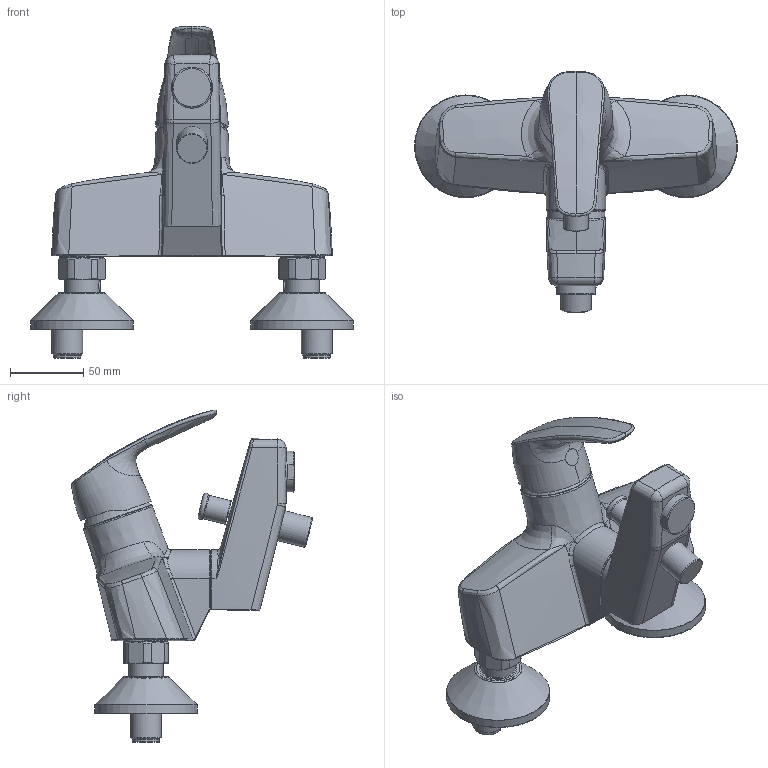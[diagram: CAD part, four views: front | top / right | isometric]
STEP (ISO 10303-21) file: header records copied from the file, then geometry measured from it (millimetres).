
FILE_DESCRIPTION (( 'STEP AP203' ), '1' );
FILE_NAME ('1072X(2017).STEP', '2017-03-09T05:41:59', ( '' ), ( '' ), 'SwSTEP 2.0', 'SolidWorks 2016', '' );
FILE_SCHEMA (( 'CONFIG_CONTROL_DESIGN' ));
Length unit declared in the file: millimetre
Products named in the file (1): 1072X(2017)
Bounding box: 220 x 164.45 x 226.14 mm (x, y, z)
Volume: 880393.7 mm3; surface area: 116423.2 mm2
Topology: 1 solids, 5 shells, 448 faces, 1083 edges, 670 vertices
Faces by surface type: bspline 145, plane 119, cylinder 99, cone 60, torus 23, sphere 2
Full cylindrical faces by diameter (mm): 7.3 x2, 7.725 x1, 12.5 x2, 16.5 x1, 18.5 x2, 20.955 x3, 21.2 x2, 22.4 x2, 23.8 x2, 24 x2, 24.12 x2, 26 x4, 26.441 x2, 27.9 x1, 29 x2, 33 x1, 69.2 x2, 70 x2
Entity records: 30642 total; most frequent: CARTESIAN_POINT 21904, ORIENTED_EDGE 1970, DIRECTION 1437, EDGE_CURVE 985, VERTEX_POINT 639, AXIS2_PLACEMENT_3D 622, EDGE_LOOP 544, FACE_OUTER_BOUND 495
